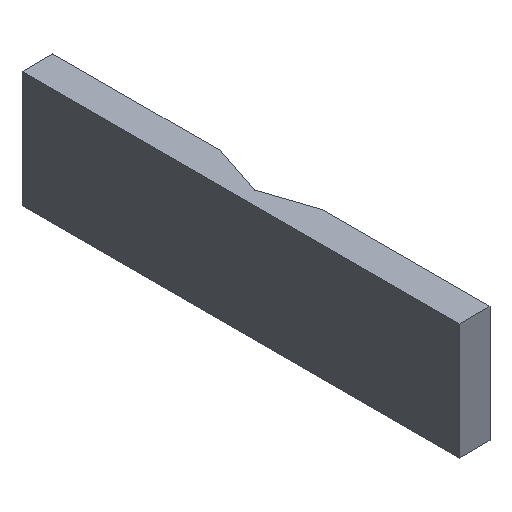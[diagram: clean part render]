
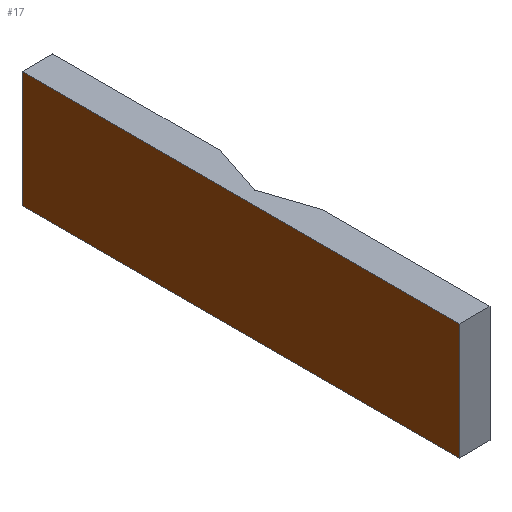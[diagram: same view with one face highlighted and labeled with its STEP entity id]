
A CAD part, isometric view. The second image highlights one B-rep face of the part: STEP entity #17.
In plain terms, the highlighted planar face has unit normal (-1, 0, 0).
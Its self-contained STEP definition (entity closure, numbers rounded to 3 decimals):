
#17 = ADVANCED_FACE('',(#18),#32,.F.);
#18 = FACE_BOUND('',#19,.F.);
#19 = EDGE_LOOP('',(#20,#55,#83,#111));
#20 = ORIENTED_EDGE('',*,*,#21,.F.);
#21 = EDGE_CURVE('',#22,#24,#26,.T.);
#22 = VERTEX_POINT('',#23);
#23 = CARTESIAN_POINT('',(-24.,-32.,-275.));
#24 = VERTEX_POINT('',#25);
#25 = CARTESIAN_POINT('',(-24.,-32.,-258.));
#26 = SURFACE_CURVE('',#27,(#31,#43),.PCURVE_S1.);
#27 = LINE('',#28,#29);
#28 = CARTESIAN_POINT('',(-24.,-32.,-275.));
#29 = VECTOR('',#30,1.);
#30 = DIRECTION('',(0.,0.,1.));
#31 = PCURVE('',#32,#37);
#32 = PLANE('',#33);
#33 = AXIS2_PLACEMENT_3D('',#34,#35,#36);
#34 = CARTESIAN_POINT('',(-24.,-32.,-275.));
#35 = DIRECTION('',(1.,0.,0.));
#36 = DIRECTION('',(0.,0.,1.));
#37 = DEFINITIONAL_REPRESENTATION('',(#38),#42);
#38 = LINE('',#39,#40);
#39 = CARTESIAN_POINT('',(0.,0.));
#40 = VECTOR('',#41,1.);
#41 = DIRECTION('',(1.,0.));
#42 = ( GEOMETRIC_REPRESENTATION_CONTEXT(2) 
PARAMETRIC_REPRESENTATION_CONTEXT() REPRESENTATION_CONTEXT('2D SPACE',''
  ) );
#43 = PCURVE('',#44,#49);
#44 = PLANE('',#45);
#45 = AXIS2_PLACEMENT_3D('',#46,#47,#48);
#46 = CARTESIAN_POINT('',(-24.,-32.,-275.));
#47 = DIRECTION('',(0.,1.,0.));
#48 = DIRECTION('',(0.,0.,1.));
#49 = DEFINITIONAL_REPRESENTATION('',(#50),#54);
#50 = LINE('',#51,#52);
#51 = CARTESIAN_POINT('',(0.,0.));
#52 = VECTOR('',#53,1.);
#53 = DIRECTION('',(1.,0.));
#54 = ( GEOMETRIC_REPRESENTATION_CONTEXT(2) 
PARAMETRIC_REPRESENTATION_CONTEXT() REPRESENTATION_CONTEXT('2D SPACE',''
  ) );
#55 = ORIENTED_EDGE('',*,*,#56,.T.);
#56 = EDGE_CURVE('',#22,#57,#59,.T.);
#57 = VERTEX_POINT('',#58);
#58 = CARTESIAN_POINT('',(-24.,32.,-275.));
#59 = SURFACE_CURVE('',#60,(#64,#71),.PCURVE_S1.);
#60 = LINE('',#61,#62);
#61 = CARTESIAN_POINT('',(-24.,-32.,-275.));
#62 = VECTOR('',#63,1.);
#63 = DIRECTION('',(0.,1.,0.));
#64 = PCURVE('',#32,#65);
#65 = DEFINITIONAL_REPRESENTATION('',(#66),#70);
#66 = LINE('',#67,#68);
#67 = CARTESIAN_POINT('',(0.,0.));
#68 = VECTOR('',#69,1.);
#69 = DIRECTION('',(0.,-1.));
#70 = ( GEOMETRIC_REPRESENTATION_CONTEXT(2) 
PARAMETRIC_REPRESENTATION_CONTEXT() REPRESENTATION_CONTEXT('2D SPACE',''
  ) );
#71 = PCURVE('',#72,#77);
#72 = PLANE('',#73);
#73 = AXIS2_PLACEMENT_3D('',#74,#75,#76);
#74 = CARTESIAN_POINT('',(-24.,-32.,-275.));
#75 = DIRECTION('',(0.,0.,1.));
#76 = DIRECTION('',(1.,0.,0.));
#77 = DEFINITIONAL_REPRESENTATION('',(#78),#82);
#78 = LINE('',#79,#80);
#79 = CARTESIAN_POINT('',(0.,0.));
#80 = VECTOR('',#81,1.);
#81 = DIRECTION('',(0.,1.));
#82 = ( GEOMETRIC_REPRESENTATION_CONTEXT(2) 
PARAMETRIC_REPRESENTATION_CONTEXT() REPRESENTATION_CONTEXT('2D SPACE',''
  ) );
#83 = ORIENTED_EDGE('',*,*,#84,.T.);
#84 = EDGE_CURVE('',#57,#85,#87,.T.);
#85 = VERTEX_POINT('',#86);
#86 = CARTESIAN_POINT('',(-24.,32.,-258.));
#87 = SURFACE_CURVE('',#88,(#92,#99),.PCURVE_S1.);
#88 = LINE('',#89,#90);
#89 = CARTESIAN_POINT('',(-24.,32.,-275.));
#90 = VECTOR('',#91,1.);
#91 = DIRECTION('',(0.,0.,1.));
#92 = PCURVE('',#32,#93);
#93 = DEFINITIONAL_REPRESENTATION('',(#94),#98);
#94 = LINE('',#95,#96);
#95 = CARTESIAN_POINT('',(0.,-64.));
#96 = VECTOR('',#97,1.);
#97 = DIRECTION('',(1.,0.));
#98 = ( GEOMETRIC_REPRESENTATION_CONTEXT(2) 
PARAMETRIC_REPRESENTATION_CONTEXT() REPRESENTATION_CONTEXT('2D SPACE',''
  ) );
#99 = PCURVE('',#100,#105);
#100 = PLANE('',#101);
#101 = AXIS2_PLACEMENT_3D('',#102,#103,#104);
#102 = CARTESIAN_POINT('',(-24.,32.,-275.));
#103 = DIRECTION('',(0.,1.,0.));
#104 = DIRECTION('',(0.,0.,1.));
#105 = DEFINITIONAL_REPRESENTATION('',(#106),#110);
#106 = LINE('',#107,#108);
#107 = CARTESIAN_POINT('',(0.,0.));
#108 = VECTOR('',#109,1.);
#109 = DIRECTION('',(1.,0.));
#110 = ( GEOMETRIC_REPRESENTATION_CONTEXT(2) 
PARAMETRIC_REPRESENTATION_CONTEXT() REPRESENTATION_CONTEXT('2D SPACE',''
  ) );
#111 = ORIENTED_EDGE('',*,*,#112,.F.);
#112 = EDGE_CURVE('',#24,#85,#113,.T.);
#113 = SURFACE_CURVE('',#114,(#118,#125),.PCURVE_S1.);
#114 = LINE('',#115,#116);
#115 = CARTESIAN_POINT('',(-24.,-32.,-258.));
#116 = VECTOR('',#117,1.);
#117 = DIRECTION('',(0.,1.,0.));
#118 = PCURVE('',#32,#119);
#119 = DEFINITIONAL_REPRESENTATION('',(#120),#124);
#120 = LINE('',#121,#122);
#121 = CARTESIAN_POINT('',(17.,0.));
#122 = VECTOR('',#123,1.);
#123 = DIRECTION('',(0.,-1.));
#124 = ( GEOMETRIC_REPRESENTATION_CONTEXT(2) 
PARAMETRIC_REPRESENTATION_CONTEXT() REPRESENTATION_CONTEXT('2D SPACE',''
  ) );
#125 = PCURVE('',#126,#131);
#126 = PLANE('',#127);
#127 = AXIS2_PLACEMENT_3D('',#128,#129,#130);
#128 = CARTESIAN_POINT('',(-24.,-32.,-258.));
#129 = DIRECTION('',(0.,0.,1.));
#130 = DIRECTION('',(1.,0.,0.));
#131 = DEFINITIONAL_REPRESENTATION('',(#132),#136);
#132 = LINE('',#133,#134);
#133 = CARTESIAN_POINT('',(0.,0.));
#134 = VECTOR('',#135,1.);
#135 = DIRECTION('',(0.,1.));
#136 = ( GEOMETRIC_REPRESENTATION_CONTEXT(2) 
PARAMETRIC_REPRESENTATION_CONTEXT() REPRESENTATION_CONTEXT('2D SPACE',''
  ) );
